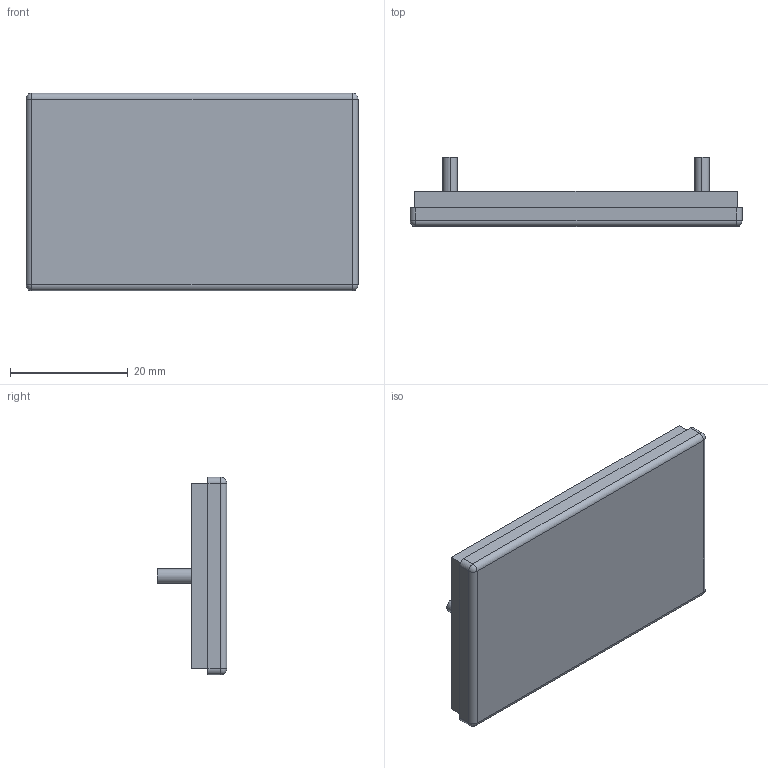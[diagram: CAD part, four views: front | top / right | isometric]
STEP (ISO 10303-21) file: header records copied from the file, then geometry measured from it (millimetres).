
FILE_DESCRIPTION (( 'STEP AP214' ), '1' );
FILE_NAME ('Tapa PP56.STEP', '2016-09-12T18:45:55', ( 'aaa' ), ( '' ), 'SwSTEP 2.0', 'SolidWorks 2013', '' );
FILE_SCHEMA (( 'AUTOMOTIVE_DESIGN' ));
Length unit declared in the file: millimetre
Products named in the file (1): Tapa PP56
Bounding box: 56.35 x 11.8 x 33.55 mm (x, y, z)
Volume: 4460 mm3; surface area: 5599.5 mm2
Topology: 1 solids, 1 shells, 37 faces, 88 edges, 52 vertices
Faces by surface type: plane 21, cylinder 12, sphere 4
Entity records: 1060 total; most frequent: DIRECTION 184, CARTESIAN_POINT 174, ORIENTED_EDGE 168, EDGE_CURVE 84, AXIS2_PLACEMENT_3D 62, LINE 60, VECTOR 60, VERTEX_POINT 52
